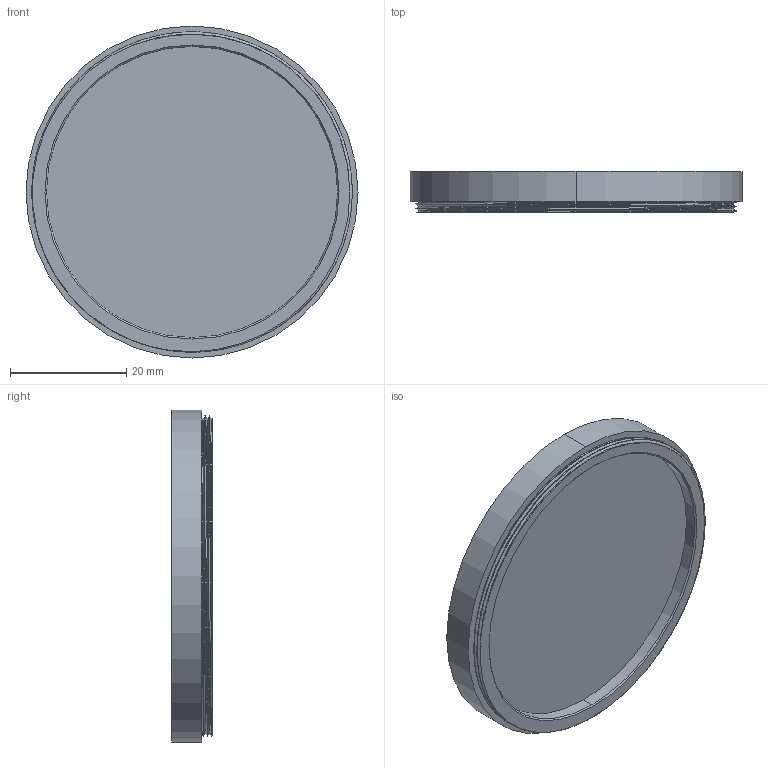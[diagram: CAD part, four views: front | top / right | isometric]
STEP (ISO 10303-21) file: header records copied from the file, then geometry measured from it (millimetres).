
FILE_DESCRIPTION (( 'STEP AP214' ), '1' );
FILE_NAME ('M55 x P0.75.STEP', '2023-01-19T08:18:11', ( '' ), ( '' ), 'SwSTEP 2.0', 'SolidWorks 2021', '' );
FILE_SCHEMA (( 'AUTOMOTIVE_DESIGN' ));
Length unit declared in the file: millimetre
Products named in the file (1): M55 x P0.75
Bounding box: 57 x 7 x 57 mm (x, y, z)
Volume: 3307.7 mm3; surface area: 9137.8 mm2
Topology: 3 solids, 3 shells, 47 faces, 112 edges, 74 vertices
Faces by surface type: cylinder 25, plane 11, bspline 9, cone 2
Entity records: 3217 total; most frequent: CARTESIAN_POINT 2199, ORIENTED_EDGE 224, DIRECTION 173, EDGE_CURVE 112, VERTEX_POINT 74, AXIS2_PLACEMENT_3D 73, EDGE_LOOP 54, FACE_OUTER_BOUND 47
